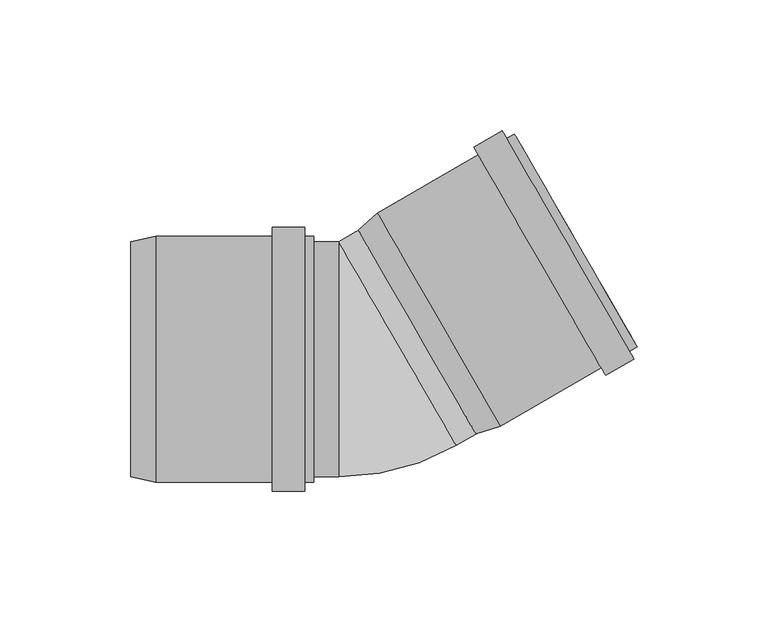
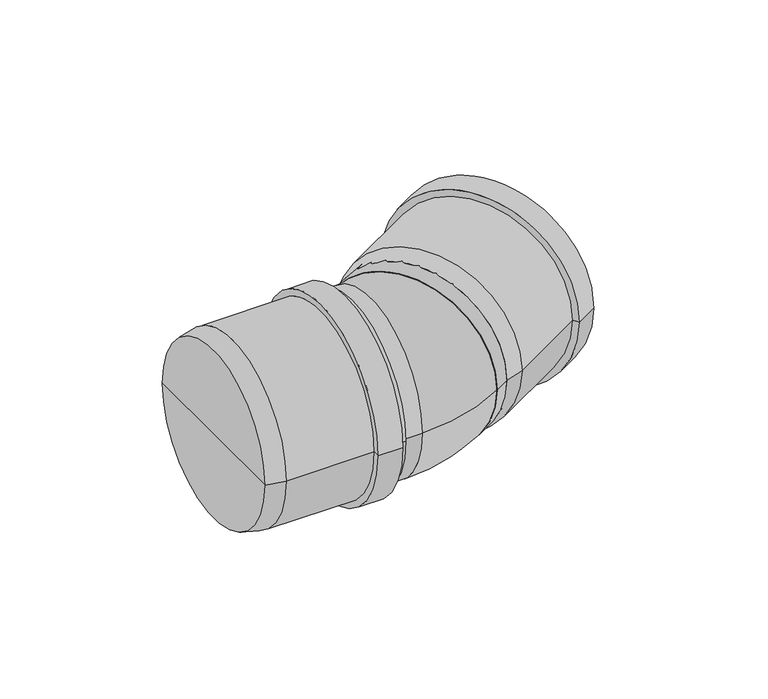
"""IFC4 building model written with IfcOpenShell, lengths in millimetres: pipe fitting geometry, pf_HTB : pf_HTB."""

from ifc_helpers import new_model, si_unit, point, frame, origin, origin_2d, place, context, project, spatial, polyline, circle_curve, ellipse_curve, trimmed, segment, composite_curve, outline, extrude, source, transform, mapped, element, save
from ifc_brep_helpers import plane_surface, cylinder_surface, revolved_surface, advanced_brep


def pipe_fitting_39f5aeaa(model_context):
    return source(origin(), model_context, "Body", "SolidModel", [
        advanced_brep(
        [(40.5133284, -28.5711432, 0.0), (-4.4866716, 49.3711432, 0.0), (2.7405697, 55.853194, 0.0), (49.7405697, -25.553194, 0.0), (18.0133284, 10.4, 0.0), (102.1351067, 4.696806, 0.0), (55.1351067, 86.103194, 0.0), (56.1351067, 84.3711432, 0.0), (101.1351067, 6.4288568, 0.0), (99.1906203, 2.996806, 0.0), (52.1906203, 84.403194, 0.0), (100.8906203, 0.0523196, 0.0), (50.4906203, 87.3476804, 0.0), (90.0653027, -6.1976804, 0.0), (39.6653027, 81.0976804, 0.0), (88.3653027, -3.253194, 0.0), (41.3653027, 78.153194, 0.0), (48.7405697, -23.8211432, 0.0), (3.7405697, 54.1211432, 0.0), (26.2405697, 15.15, 0.0)],
        [
            (0, 1, circle_curve(frame((18.0133284, 10.4, 0.0), z_axis=(0.8660254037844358, 0.500000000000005, 0.0), x_axis=(-0.500000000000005, 0.8660254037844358, 0.0)), 45.0)),
            (1, 2),
            (2, 3, circle_curve(frame((26.2405697, 15.15, 0.0), z_axis=(-0.8660254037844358, -0.500000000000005, 0.0), x_axis=(-0.500000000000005, 0.8660254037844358, 0.0)), 47.0)),
            (3, 0),
            (1, 0, circle_curve(frame((18.0133284, 10.4, 0.0), z_axis=(0.8660254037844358, 0.500000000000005, 0.0), x_axis=(-0.500000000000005, 0.8660254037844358, 0.0)), 45.0)),
            (3, 2, circle_curve(frame((26.2405697, 15.15, 0.0), z_axis=(-0.8660254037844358, -0.500000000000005, 0.0), x_axis=(-0.500000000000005, 0.8660254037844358, 0.0)), 47.0)),
            (4, 1),
            (0, 4),
            (5, 6, circle_curve(frame((78.6351067, 45.4, 0.0), z_axis=(0.8660254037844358, 0.500000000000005, 0.0), x_axis=(-0.500000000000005, 0.8660254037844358, 0.0)), 47.0)),
            (6, 7),
            (7, 8, circle_curve(frame((78.6351067, 45.4, 0.0), z_axis=(-0.8660254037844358, -0.500000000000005, 0.0), x_axis=(-0.500000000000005, 0.8660254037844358, 0.0)), 45.0)),
            (8, 5),
            (6, 5, circle_curve(frame((78.6351067, 45.4, 0.0), z_axis=(0.8660254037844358, 0.500000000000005, 0.0), x_axis=(-0.500000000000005, 0.8660254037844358, 0.0)), 47.0)),
            (8, 7, circle_curve(frame((78.6351067, 45.4, 0.0), z_axis=(-0.8660254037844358, -0.500000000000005, 0.0), x_axis=(-0.500000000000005, 0.8660254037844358, 0.0)), 45.0)),
            (9, 10, circle_curve(frame((75.6906203, 43.7, 0.0), z_axis=(0.8660254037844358, 0.500000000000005, 0.0), x_axis=(-0.500000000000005, 0.8660254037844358, 0.0)), 47.0)),
            (10, 6),
            (5, 9),
            (10, 9, circle_curve(frame((75.6906203, 43.7, 0.0), z_axis=(0.8660254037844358, 0.500000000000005, 0.0), x_axis=(-0.500000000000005, 0.8660254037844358, 0.0)), 47.0)),
            (11, 12, circle_curve(frame((75.6906203, 43.7, 0.0), z_axis=(0.8660254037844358, 0.500000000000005, 0.0), x_axis=(-0.500000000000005, 0.8660254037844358, 0.0)), 50.4)),
            (12, 10),
            (9, 11),
            (12, 11, circle_curve(frame((75.6906203, 43.7, 0.0), z_axis=(0.8660254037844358, 0.500000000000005, 0.0), x_axis=(-0.500000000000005, 0.8660254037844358, 0.0)), 50.4)),
            (13, 14, circle_curve(frame((64.8653027, 37.45, 0.0), z_axis=(0.8660254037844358, 0.500000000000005, 0.0), x_axis=(-0.500000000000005, 0.8660254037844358, 0.0)), 50.4)),
            (14, 12),
            (11, 13),
            (14, 13, circle_curve(frame((64.8653027, 37.45, 0.0), z_axis=(0.8660254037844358, 0.500000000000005, 0.0), x_axis=(-0.500000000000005, 0.8660254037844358, 0.0)), 50.4)),
            (15, 16, circle_curve(frame((64.8653027, 37.45, 0.0), z_axis=(0.8660254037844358, 0.500000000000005, 0.0), x_axis=(-0.500000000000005, 0.8660254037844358, 0.0)), 47.0)),
            (16, 14),
            (13, 15),
            (16, 15, circle_curve(frame((64.8653027, 37.45, 0.0), z_axis=(0.8660254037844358, 0.500000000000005, 0.0), x_axis=(-0.500000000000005, 0.8660254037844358, 0.0)), 47.0)),
            (2, 16),
            (15, 3),
            (17, 18, circle_curve(frame((26.2405697, 15.15, 0.0), z_axis=(0.8660254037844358, 0.500000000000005, 0.0), x_axis=(-0.500000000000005, 0.8660254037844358, 0.0)), 45.0)),
            (18, 19),
            (19, 17),
            (18, 17, circle_curve(frame((26.2405697, 15.15, 0.0), z_axis=(0.8660254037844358, 0.500000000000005, 0.0), x_axis=(-0.500000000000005, 0.8660254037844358, 0.0)), 45.0)),
            (7, 18),
            (17, 8),
        ],
        [
            revolved_surface(polyline([(2.7405697, 55.853194, 0.0), (-4.4866716, 49.3711432, 0.0)]), (18.0133284, 10.4, 0.0), (-0.8660254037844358, -0.500000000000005, 0.0)),
            plane_surface(frame((18.0133284, 10.4, 0.0), z_axis=(-0.8660254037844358, -0.500000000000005, 0.0), x_axis=(-0.500000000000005, 0.8660254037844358, 0.0))),
            plane_surface(frame((78.6351067, 45.4, 0.0), z_axis=(0.8660254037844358, 0.500000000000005, 0.0), x_axis=(-0.500000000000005, 0.8660254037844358, 0.0))),
            cylinder_surface(frame((18.0133284, 10.4, 0.0), z_axis=(-0.8660254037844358, -0.500000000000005, 0.0), x_axis=(-0.500000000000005, 0.8660254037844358, 0.0)), 47.0),
            plane_surface(frame((75.6906203, 43.7, 0.0), z_axis=(0.8660254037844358, 0.500000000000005, 0.0), x_axis=(-0.500000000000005, 0.8660254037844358, 0.0))),
            cylinder_surface(frame((18.0133284, 10.4, 0.0), z_axis=(-0.8660254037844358, -0.500000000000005, 0.0), x_axis=(-0.500000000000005, 0.8660254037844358, 0.0)), 50.4),
            plane_surface(frame((64.8653027, 37.45, 0.0), z_axis=(-0.8660254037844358, -0.500000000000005, 0.0), x_axis=(-0.500000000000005, 0.8660254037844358, 0.0))),
            plane_surface(frame((26.2405697, 15.15, 0.0), z_axis=(0.8660254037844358, 0.500000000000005, 0.0), x_axis=(-0.500000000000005, 0.8660254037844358, 0.0))),
            revolved_surface(polyline([(3.740569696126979, 54.12114314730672, 0.0), (56.13510670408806, 84.37114319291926, 0.0)]), (18.0133284, 10.4, 0.0), (-0.8660254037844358, -0.500000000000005, 0.0)),
        ],
        [
            (0, [[1, 2, 3, 4]]),
            (0, [[5, -4, 6, -2]]),
            (1, [[7, -1, 8]]),
            (1, [[-8, -5, -7]]),
            (2, [[9, 10, 11, 12]]),
            (2, [[13, -12, 14, -10]]),
            (3, [[15, 16, -9, 17]]),
            (3, [[18, -17, -13, -16]]),
            (4, [[19, 20, -15, 21]]),
            (4, [[22, -21, -18, -20]]),
            (5, [[23, 24, -19, 25]]),
            (5, [[26, -25, -22, -24]]),
            (6, [[27, 28, -23, 29]]),
            (6, [[30, -29, -26, -28]]),
            (3, [[-3, 31, -27, 32]]),
            (3, [[-6, -32, -30, -31]]),
            (7, [[33, 34, 35]]),
            (7, [[36, -35, -34]]),
            (8, [[-11, 37, -33, 38]]),
            (8, [[-14, -38, -36, -37]]),
        ],
    ),
        advanced_brep(
        [(-91.5, -45.0, 0.0), (-91.5, 45.0, 0.0), (-82.0, 47.0, 0.0), (-82.0, -47.0, 0.0), (-91.5, 0.0, 0.0), (-21.5, -47.0, 0.0), (-21.5, 47.0, 0.0), (-21.5, 45.0, 0.0), (-21.5, -45.0, 0.0), (-24.9, -47.0, 0.0), (-24.9, 47.0, 0.0), (-24.9, -50.4, 0.0), (-24.9, 50.4, 0.0), (-37.4, -50.4, 0.0), (-37.4, 50.4, 0.0), (-37.4, -47.0, 0.0), (-37.4, 47.0, 0.0), (-82.0, -45.0, 0.0), (-82.0, 45.0, 0.0), (-82.0, 0.0, 0.0)],
        [
            (0, 1, circle_curve(frame((-91.5, 0.0, 0.0), z_axis=(1.0, 0.0, 0.0), x_axis=(0.0, 1.0, 0.0)), 45.0)),
            (1, 2),
            (2, 3, circle_curve(frame((-82.0, 0.0, 0.0), z_axis=(-1.0, 0.0, 0.0), x_axis=(0.0, 1.0, 0.0)), 47.0)),
            (3, 0),
            (1, 0, circle_curve(frame((-91.5, 0.0, 0.0), z_axis=(1.0, 0.0, 0.0), x_axis=(0.0, 1.0, 0.0)), 45.0)),
            (3, 2, circle_curve(frame((-82.0, 0.0, 0.0), z_axis=(-1.0, 0.0, 0.0), x_axis=(0.0, 1.0, 0.0)), 47.0)),
            (4, 1),
            (0, 4),
            (5, 6, circle_curve(frame((-21.5, 0.0, 0.0), z_axis=(1.0, 0.0, 0.0), x_axis=(0.0, 1.0, 0.0)), 47.0)),
            (6, 7),
            (7, 8, circle_curve(frame((-21.5, 0.0, 0.0), z_axis=(-1.0, 0.0, 0.0), x_axis=(0.0, 1.0, 0.0)), 45.0)),
            (8, 5),
            (6, 5, circle_curve(frame((-21.5, 0.0, 0.0), z_axis=(1.0, 0.0, 0.0), x_axis=(0.0, 1.0, 0.0)), 47.0)),
            (8, 7, circle_curve(frame((-21.5, 0.0, 0.0), z_axis=(-1.0, 0.0, 0.0), x_axis=(0.0, 1.0, 0.0)), 45.0)),
            (9, 10, circle_curve(frame((-24.9, 0.0, 0.0), z_axis=(1.0, 0.0, 0.0), x_axis=(0.0, 1.0, 0.0)), 47.0)),
            (10, 6),
            (5, 9),
            (10, 9, circle_curve(frame((-24.9, 0.0, 0.0), z_axis=(1.0, 0.0, 0.0), x_axis=(0.0, 1.0, 0.0)), 47.0)),
            (11, 12, circle_curve(frame((-24.9, 0.0, 0.0), z_axis=(1.0, 0.0, 0.0), x_axis=(0.0, 1.0, 0.0)), 50.4)),
            (12, 10),
            (9, 11),
            (12, 11, circle_curve(frame((-24.9, 0.0, 0.0), z_axis=(1.0, 0.0, 0.0), x_axis=(0.0, 1.0, 0.0)), 50.4)),
            (13, 14, circle_curve(frame((-37.4, 0.0, 0.0), z_axis=(1.0, 0.0, 0.0), x_axis=(0.0, 1.0, 0.0)), 50.4)),
            (14, 12),
            (11, 13),
            (14, 13, circle_curve(frame((-37.4, 0.0, 0.0), z_axis=(1.0, 0.0, 0.0), x_axis=(0.0, 1.0, 0.0)), 50.4)),
            (15, 16, circle_curve(frame((-37.4, 0.0, 0.0), z_axis=(1.0, 0.0, 0.0), x_axis=(0.0, 1.0, 0.0)), 47.0)),
            (16, 14),
            (13, 15),
            (16, 15, circle_curve(frame((-37.4, 0.0, 0.0), z_axis=(1.0, 0.0, 0.0), x_axis=(0.0, 1.0, 0.0)), 47.0)),
            (2, 16),
            (15, 3),
            (17, 18, circle_curve(frame((-82.0, 0.0, 0.0), z_axis=(1.0, 0.0, 0.0), x_axis=(0.0, 1.0, 0.0)), 45.0)),
            (18, 19),
            (19, 17),
            (18, 17, circle_curve(frame((-82.0, 0.0, 0.0), z_axis=(1.0, 0.0, 0.0), x_axis=(0.0, 1.0, 0.0)), 45.0)),
            (7, 18),
            (17, 8),
        ],
        [
            revolved_surface(polyline([(-82.0, 47.0, 0.0), (-91.5, 45.0, 0.0)]), (-91.5, 0.0, 0.0), (-1.0, 0.0, 0.0)),
            plane_surface(frame((-91.5, 0.0, 0.0), z_axis=(-1.0, 0.0, 0.0), x_axis=(0.0, 1.0, 0.0))),
            plane_surface(frame((-21.5, 0.0, 0.0), z_axis=(1.0, 0.0, 0.0), x_axis=(0.0, 1.0, 0.0))),
            cylinder_surface(frame((-91.5, 0.0, 0.0), z_axis=(-1.0, 0.0, 0.0), x_axis=(0.0, 1.0, 0.0)), 47.0),
            plane_surface(frame((-24.9, 0.0, 0.0), z_axis=(1.0, 0.0, 0.0), x_axis=(0.0, 1.0, 0.0))),
            cylinder_surface(frame((-91.5, 0.0, 0.0), z_axis=(-1.0, 0.0, 0.0), x_axis=(0.0, 1.0, 0.0)), 50.4),
            plane_surface(frame((-37.4, 0.0, 0.0), z_axis=(-1.0, 0.0, 0.0), x_axis=(0.0, 1.0, 0.0))),
            plane_surface(frame((-82.0, 0.0, 0.0), z_axis=(1.0, 0.0, 0.0), x_axis=(0.0, 1.0, 0.0))),
            revolved_surface(polyline([(-82.0, 45.0, 0.0), (-21.5, 45.0, 0.0)]), (-91.5, 0.0, 0.0), (-1.0, 0.0, 0.0)),
        ],
        [
            (0, [[1, 2, 3, 4]]),
            (0, [[5, -4, 6, -2]]),
            (1, [[7, -1, 8]]),
            (1, [[-8, -5, -7]]),
            (2, [[9, 10, 11, 12]]),
            (2, [[13, -12, 14, -10]]),
            (3, [[15, 16, -9, 17]]),
            (3, [[18, -17, -13, -16]]),
            (4, [[19, 20, -15, 21]]),
            (4, [[22, -21, -18, -20]]),
            (5, [[23, 24, -19, 25]]),
            (5, [[26, -25, -22, -24]]),
            (6, [[27, 28, -23, 29]]),
            (6, [[30, -29, -26, -28]]),
            (3, [[-3, 31, -27, 32]]),
            (3, [[-6, -32, -30, -31]]),
            (7, [[33, 34, 35]]),
            (7, [[36, -35, -34]]),
            (8, [[-11, 37, -33, 38]]),
            (8, [[-14, -38, -36, -37]]),
        ],
    ),
        extrude(outline(composite_curve([segment(trimmed(circle_curve(origin_2d(), 45.0), [point((0.0, -45.0))], [point((0.0, 44.9999999))], False, "CARTESIAN"), True, "CONTINUOUS"), segment(trimmed(circle_curve(origin_2d(), 45.0), [point((0.0, 44.9999999))], [point((0.0, -45.0))], False, "CARTESIAN"), True, "CONTINUOUS")], self_intersect=False)), frame((10.4422863, 6.0288568, 0.0), z_axis=(0.8660254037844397, 0.4999999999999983, 0.0), x_axis=(0.0, 0.0, 1.0)), (0.0, 0.0, 1.0), 18.2422863),
        extrude(outline(composite_curve([segment(trimmed(circle_curve(origin_2d(), 45.0), [point((-45.0, 0.0))], [point((45.0, 0.0))], False, "CARTESIAN"), True, "CONTINUOUS"), segment(trimmed(circle_curve(origin_2d(), 45.0), [point((45.0, 0.0))], [point((-45.0, 0.0))], False, "CARTESIAN"), True, "CONTINUOUS")], self_intersect=False)), frame((-82.0, 0.0, 0.0), z_axis=(1.0, 0.0, 0.0), x_axis=(0.0, 1.0, 0.0)), (0.0, 0.0, 1.0), 69.9422863),
        advanced_brep(
        [(-12.0577137, -45.0, 0.0), (-12.0577137, 45.0, 0.0), (32.9422863, -32.9422863, 0.0)],
        [
            (0, 1, circle_curve(frame((-12.0577137, 0.0, 0.0), z_axis=(-1.0, 0.0, 0.0), x_axis=(0.0, 1.0, 0.0)), 45.0)),
            (1, 0, circle_curve(frame((-12.0577137, 0.0, 0.0), z_axis=(-1.0, 0.0, 0.0), x_axis=(0.0, 1.0, 0.0)), 45.0)),
            (2, 1, circle_curve(frame((10.4422863, 6.0288568, 0.0), z_axis=(0.8660254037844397, 0.49999999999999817, 0.0), x_axis=(-0.49999999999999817, 0.8660254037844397, 0.0)), 45.0)),
            (1, 2, circle_curve(frame((10.4422863, 6.0288568, 0.0), z_axis=(0.8660254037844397, 0.49999999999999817, 0.0), x_axis=(-0.49999999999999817, 0.8660254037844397, 0.0)), 45.0)),
            (2, 0, circle_curve(frame((-12.0577137, 45.0, 0.0), z_axis=(0.0, 0.0, -1.0), x_axis=(0.0, -1.0, 0.0)), 90.0)),
        ],
        [
            plane_surface(frame((-12.0577137, 45.0, -14.8), z_axis=(-1.0, 0.0, 0.0), x_axis=(0.0, -1.0, 0.0))),
            plane_surface(frame((-12.0577137, 45.0, -14.8), z_axis=(0.8660254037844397, 0.4999999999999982, 0.0), x_axis=(0.4999999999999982, -0.8660254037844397, 0.0))),
            revolved_surface(trimmed(ellipse_curve(frame((-12.0577137, 0.0, 0.0), z_axis=(1.0, 0.0, 0.0), x_axis=(0.0, 1.0, 0.0)), 45.0, 45.0), [point((-12.0577137, -45.0, 0.0))], [point((-12.0577137, 45.0, 0.0))], True, "CARTESIAN"), (-12.0577137, 45.0, -14.8), (0.0, 0.0, -1.0)),
            revolved_surface(trimmed(ellipse_curve(frame((-12.0577137, 0.0, 0.0), z_axis=(1.0, 0.0, 0.0), x_axis=(0.0, 1.0, 0.0)), 45.0, 45.0), [point((-12.0577137, 45.0, 0.0))], [point((-12.0577137, -45.0, 0.0))], True, "CARTESIAN"), (-12.0577137, 45.0, -14.8), (0.0, 0.0, -1.0)),
        ],
        [
            (0, [[1, 2]]),
            (1, [[3, 4]]),
            (2, [[5, -2, -3]]),
            (3, [[-1, -5, -4]]),
        ],
    ),
    ])


if __name__ == "__main__":
    model = new_model("IFC4")
    model_context = context("Model", 3, world=origin())
    ifc_project = project(units=[si_unit("LENGTHUNIT", "METRE", prefix="MILLI")], contexts=[model_context])
    site = spatial("IfcSite", under=ifc_project)
    building = spatial("IfcBuilding", under=site)
    placement = place(None, origin())
    pipe_fitting_shape = pipe_fitting_39f5aeaa(model_context)
    element("IfcPipeFitting", 1, ObjectType="pf_HTB : pf_HTB", at=placement, inside=building, context=model_context, shape_type="MappedRepresentation", body=[
        mapped(pipe_fitting_shape, transform((0.0, 0.0, 0.0), x_axis=(1.0, 0.0, 0.0), y_axis=(0.0, 1.0, 0.0), z_axis=(0.0, 0.0, 1.0))),
    ])
    save(model, "model.ifc")
